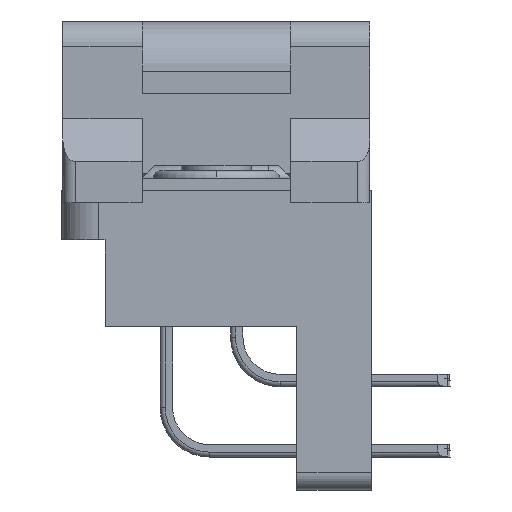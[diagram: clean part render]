
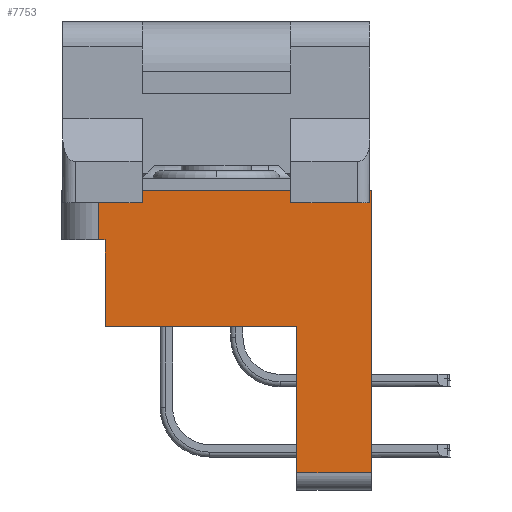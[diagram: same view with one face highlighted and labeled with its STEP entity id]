
A CAD part, left-side view. The second image highlights one B-rep face of the part: STEP entity #7753.
In plain terms, the highlighted planar face has unit normal (-1, 0, 0).
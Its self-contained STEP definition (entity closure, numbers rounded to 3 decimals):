
#301 = LINE ( 'NONE', #10727, #20120 ) ;
#2309 = EDGE_CURVE ( 'NONE', #8175, #13475, #17647, .T. ) ;
#3343 = VECTOR ( 'NONE', #13435, 1000. ) ;
#3365 = VECTOR ( 'NONE', #19917, 1000. ) ;
#3400 = ORIENTED_EDGE ( 'NONE', *, *, #17311, .F. ) ;
#3730 = VERTEX_POINT ( 'NONE', #6534 ) ;
#4106 = CARTESIAN_POINT ( 'NONE',  ( -15.4, 7.5, -2. ) ) ;
#4328 = CARTESIAN_POINT ( 'NONE',  ( -15.4, 4.75, -5.5 ) ) ;
#4710 = ORIENTED_EDGE ( 'NONE', *, *, #4977, .T. ) ;
#4977 = EDGE_CURVE ( 'NONE', #9658, #17244, #14323, .T. ) ;
#5022 = CARTESIAN_POINT ( 'NONE',  ( -15.4, 4.5, -5.5 ) ) ;
#5200 = FACE_OUTER_BOUND ( 'NONE', #20341, .T. ) ;
#5591 = LINE ( 'NONE', #4106, #19844 ) ;
#5746 = CARTESIAN_POINT ( 'NONE',  ( -15.4, 6.25, 0. ) ) ;
#5811 = CARTESIAN_POINT ( 'NONE',  ( -15.4, 6.25, -5.5 ) ) ;
#6087 = DIRECTION ( 'NONE',  ( 0., -1., 0. ) ) ;
#6534 = CARTESIAN_POINT ( 'NONE',  ( -15.4, 4.5, -2. ) ) ;
#6832 = CARTESIAN_POINT ( 'NONE',  ( -15.4, -6.25, 0. ) ) ;
#6849 = EDGE_CURVE ( 'NONE', #13944, #9658, #301, .T. ) ;
#7753 = ADVANCED_FACE ( 'NONE', ( #5200 ), #12161, .T. ) ;
#7999 = CARTESIAN_POINT ( 'NONE',  ( -15.4, -6.25, -5.5 ) ) ;
#8175 = VERTEX_POINT ( 'NONE', #16429 ) ;
#8328 = ORIENTED_EDGE ( 'NONE', *, *, #2309, .T. ) ;
#8331 = LINE ( 'NONE', #5811, #3343 ) ;
#8621 = CARTESIAN_POINT ( 'NONE',  ( -15.4, 6.25, -5.5 ) ) ;
#8702 = DIRECTION ( 'NONE',  ( 0., 0., 1. ) ) ;
#9000 = EDGE_CURVE ( 'NONE', #16334, #14871, #8331, .T. ) ;
#9408 = VECTOR ( 'NONE', #21003, 1000. ) ;
#9544 = LINE ( 'NONE', #17464, #13042 ) ;
#9658 = VERTEX_POINT ( 'NONE', #19442 ) ;
#10727 = CARTESIAN_POINT ( 'NONE',  ( -15.4, -6.25, -11.4 ) ) ;
#11690 = EDGE_CURVE ( 'NONE', #13475, #3730, #5591, .T. ) ;
#12122 = VECTOR ( 'NONE', #17335, 1000. ) ;
#12161 = PLANE ( 'NONE',  #19076 ) ;
#12671 = LINE ( 'NONE', #5022, #3365 ) ;
#13042 = VECTOR ( 'NONE', #17135, 1000. ) ;
#13202 = DIRECTION ( 'NONE',  ( 0., -1., 0. ) ) ;
#13242 = ORIENTED_EDGE ( 'NONE', *, *, #15963, .F. ) ;
#13435 = DIRECTION ( 'NONE',  ( 0., -1., 0. ) ) ;
#13475 = VERTEX_POINT ( 'NONE', #14243 ) ;
#13901 = CARTESIAN_POINT ( 'NONE',  ( -15.4, -3.25, -11.4 ) ) ;
#13944 = VERTEX_POINT ( 'NONE', #13901 ) ;
#14243 = CARTESIAN_POINT ( 'NONE',  ( -15.4, 4.75, -2. ) ) ;
#14323 = LINE ( 'NONE', #7999, #9408 ) ;
#14514 = DIRECTION ( 'NONE',  ( 0., -1., 0. ) ) ;
#14691 = LINE ( 'NONE', #5746, #17323 ) ;
#14871 = VERTEX_POINT ( 'NONE', #15402 ) ;
#15402 = CARTESIAN_POINT ( 'NONE',  ( -15.4, -3.25, -5.5 ) ) ;
#15963 = EDGE_CURVE ( 'NONE', #13944, #14871, #9544, .T. ) ;
#16334 = VERTEX_POINT ( 'NONE', #20416 ) ;
#16429 = CARTESIAN_POINT ( 'NONE',  ( -15.4, 4.75, 0. ) ) ;
#17135 = DIRECTION ( 'NONE',  ( 0., 0., 1. ) ) ;
#17211 = ORIENTED_EDGE ( 'NONE', *, *, #9000, .T. ) ;
#17244 = VERTEX_POINT ( 'NONE', #6832 ) ;
#17311 = EDGE_CURVE ( 'NONE', #16334, #3730, #12671, .T. ) ;
#17323 = VECTOR ( 'NONE', #13202, 1000. ) ;
#17335 = DIRECTION ( 'NONE',  ( 0., 0., -1. ) ) ;
#17464 = CARTESIAN_POINT ( 'NONE',  ( -15.4, -3.25, -5.5 ) ) ;
#17647 = LINE ( 'NONE', #4328, #12122 ) ;
#18139 = ORIENTED_EDGE ( 'NONE', *, *, #11690, .T. ) ;
#19076 = AXIS2_PLACEMENT_3D ( 'NONE', #8621, #23476, #8702 ) ;
#19442 = CARTESIAN_POINT ( 'NONE',  ( -15.4, -6.25, -11.4 ) ) ;
#19844 = VECTOR ( 'NONE', #6087, 1000. ) ;
#19917 = DIRECTION ( 'NONE',  ( 0., 0., 1. ) ) ;
#20120 = VECTOR ( 'NONE', #14514, 1000. ) ;
#20341 = EDGE_LOOP ( 'NONE', ( #17211, #13242, #21732, #4710, #20779, #8328, #18139, #3400 ) ) ;
#20416 = CARTESIAN_POINT ( 'NONE',  ( -15.4, 4.5, -5.5 ) ) ;
#20779 = ORIENTED_EDGE ( 'NONE', *, *, #22371, .F. ) ;
#21003 = DIRECTION ( 'NONE',  ( 0., 0., 1. ) ) ;
#21732 = ORIENTED_EDGE ( 'NONE', *, *, #6849, .T. ) ;
#22371 = EDGE_CURVE ( 'NONE', #8175, #17244, #14691, .T. ) ;
#23476 = DIRECTION ( 'NONE',  ( -1., 0., 0. ) ) ;
